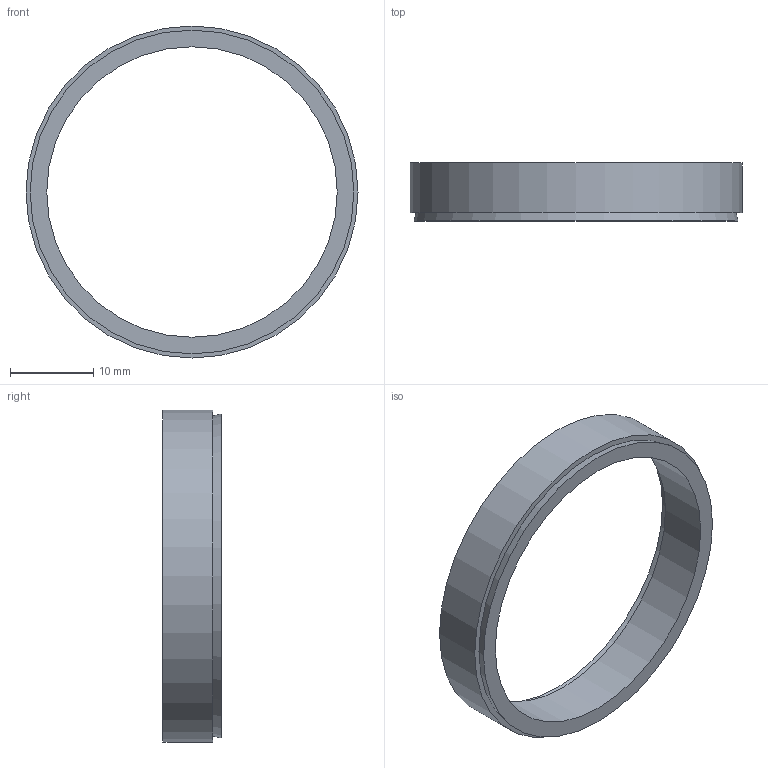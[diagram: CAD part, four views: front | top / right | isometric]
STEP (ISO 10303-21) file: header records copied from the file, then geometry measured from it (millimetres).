
FILE_DESCRIPTION( ( 'Unknown' ), '1' );
FILE_NAME( 'C:/Dokumente und Einstellungen/Sven/Desktop/homepage/cad - homepage/KBS50/KBS 50 - 35 x 40.stp', 'Unknown', ( 'Unknown' ), ( 'Unknown' ), 'XStep 1.0', 'Unknown', ' ' );
FILE_SCHEMA( ( 'automotive_design' ) );
Length unit declared in the file: millimetre
Products named in the file (1): 1
Bounding box: 40 x 7 x 40 mm (x, y, z)
Volume: 1918.6 mm3; surface area: 2294.2 mm2
Topology: 1 solids, 1 shells, 8 faces, 12 edges, 8 vertices
Faces by surface type: plane 4, cylinder 2, cone 2
Full cylindrical faces by diameter (mm): 35 x1, 40 x1
Entity records: 248 total; most frequent: DIRECTION 34, CARTESIAN_POINT 25, AXIS2_PLACEMENT_3D 17, EDGE_LOOP 16, ORIENTED_EDGE 16, FACE_OUTER_BOUND 10, STYLED_ITEM 8, PRESENTATION_STYLE_ASSIGNMENT 8
